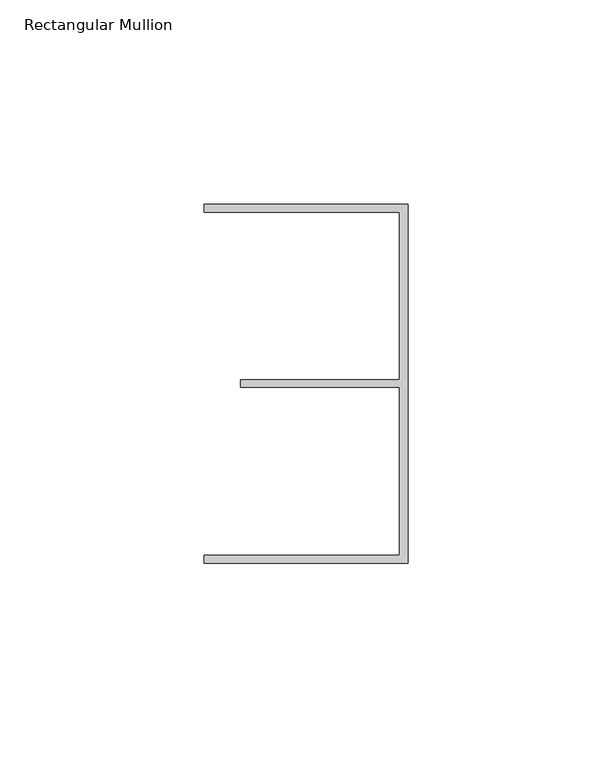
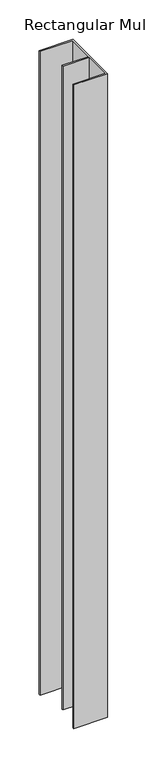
"""IFC4 building model written with IfcOpenShell, lengths in millimetres: member geometry, Rectangular Mullion : FLOOR_TRACK_CAP 94-KLS00-P80-SD41ALU."""

from ifc_helpers import new_model, si_unit, frame, origin, place, context, project, spatial, polyline, outline, extrude, source, transform, mapped, element, save


def rectangular_mullion_55831f8c(model_context):
    return source(origin(), model_context, "Body", "SweptSolid", [
        extrude(outline(polyline([(0.0, -44.0), (-50.0, -44.0), (-50.0, -42.0), (-2.0, -42.0), (-2.0, -0.9316478), (-41.0, -0.9316478), (-41.0, 0.9316478), (-2.0, 0.9316478), (-2.0, 42.0), (-50.0, 42.0), (-50.0, 44.0), (0.0, 44.0), (0.0, -44.0)])), frame((0.0, 0.0, -1000.4), z_axis=(0.0, 0.0, 1.0), x_axis=(1.0, 0.0, 0.0)), (0.0, 0.0, 1.0), 1000.4),
    ])


if __name__ == "__main__":
    model = new_model("IFC4")
    model_context = context("Model", 3, world=origin())
    ifc_project = project(units=[si_unit("LENGTHUNIT", "METRE", prefix="MILLI")], contexts=[model_context])
    site = spatial("IfcSite", under=ifc_project)
    building = spatial("IfcBuilding", under=site)
    placement = place(None, origin())
    rectangular_mullion_shape = rectangular_mullion_55831f8c(model_context)
    element("IfcMember", 1, ObjectType="Rectangular Mullion : FLOOR_TRACK_CAP 94-KLS00-P80-SD41ALU", at=placement, inside=building, context=model_context, shape_type="MappedRepresentation", body=[
        mapped(rectangular_mullion_shape, transform((0.0, 0.0, 0.0), x_axis=(1.0, 0.0, 0.0), y_axis=(0.0, 1.0, 0.0), z_axis=(0.0, 0.0, 1.0))),
    ])
    save(model, "model.ifc")
